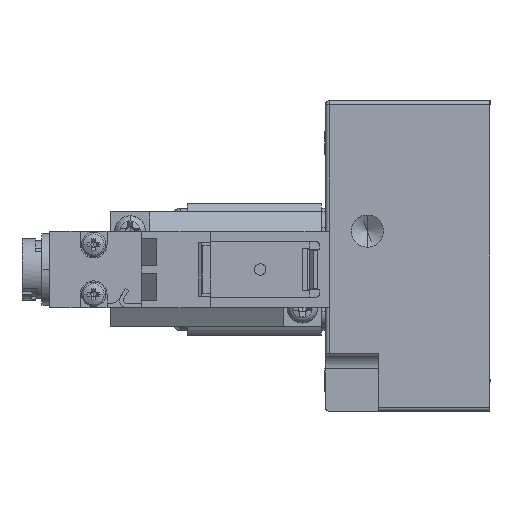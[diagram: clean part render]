
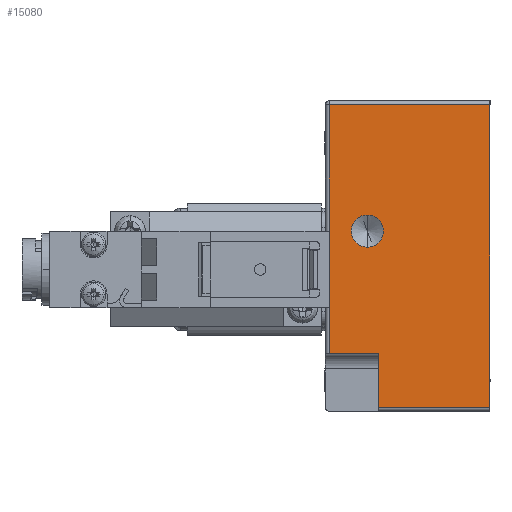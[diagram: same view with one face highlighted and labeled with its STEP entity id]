
A CAD part, left-side view. The second image highlights one B-rep face of the part: STEP entity #15080.
In plain terms, the highlighted planar face has unit normal (-1, 0, 0).
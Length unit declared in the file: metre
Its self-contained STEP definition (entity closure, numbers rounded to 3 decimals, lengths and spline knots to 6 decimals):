
#182 = EDGE_CURVE ( 'NONE', #21082, #3511, #3557, .T. ) ;
#225 = EDGE_CURVE ( 'NONE', #18153, #8799, #7630, .T. ) ;
#243 = VERTEX_POINT ( 'NONE', #2493 ) ;
#519 = CARTESIAN_POINT ( 'NONE',  ( -0.028, -0.0005, -0.011 ) ) ;
#613 = CARTESIAN_POINT ( 'NONE',  ( -0.028, -0.011, 0.0215 ) ) ;
#1608 = CARTESIAN_POINT ( 'NONE',  ( -0.028, -0.0055, 0.005 ) ) ;
#1626 = DIRECTION ( 'NONE',  ( 0., 0., -1. ) ) ;
#1664 = CARTESIAN_POINT ( 'NONE',  ( -0.028, -0.0215, 0.0215 ) ) ;
#1689 = DIRECTION ( 'NONE',  ( -1., 0., 0. ) ) ;
#1759 = DIRECTION ( 'NONE',  ( 0., 0., 1. ) ) ;
#2095 = LINE ( 'NONE', #2543, #20960 ) ;
#2407 = DIRECTION ( 'NONE',  ( 0., -1., 0. ) ) ;
#2437 = CARTESIAN_POINT ( 'NONE',  ( -0.028, -0.011, -0.018 ) ) ;
#2464 = CARTESIAN_POINT ( 'NONE',  ( -0.028, -0.0055, 0.0071 ) ) ;
#2493 = CARTESIAN_POINT ( 'NONE',  ( -0.028, -0.0005, 0.0215 ) ) ;
#2543 = CARTESIAN_POINT ( 'NONE',  ( -0.028, -0.011, -0.011 ) ) ;
#2607 = VECTOR ( 'NONE', #12811, 1. ) ;
#2958 = DIRECTION ( 'NONE',  ( 0., 0., -1. ) ) ;
#3511 = VERTEX_POINT ( 'NONE', #2464 ) ;
#3557 = CIRCLE ( 'NONE', #4434, 0.0021 ) ;
#3648 = LINE ( 'NONE', #18482, #8263 ) ;
#3958 = VECTOR ( 'NONE', #12563, 1. ) ;
#4434 = AXIS2_PLACEMENT_3D ( 'NONE', #1608, #1689, #1759 ) ;
#4656 = EDGE_CURVE ( 'NONE', #11437, #13387, #2095, .T. ) ;
#4853 = PLANE ( 'NONE',  #12902 ) ;
#4993 = CARTESIAN_POINT ( 'NONE',  ( -0.028, -0.007, -0.018 ) ) ;
#5388 = CARTESIAN_POINT ( 'NONE',  ( -0.028, -0.0215, -0.018 ) ) ;
#5472 = VERTEX_POINT ( 'NONE', #1664 ) ;
#5907 = ORIENTED_EDGE ( 'NONE', *, *, #19389, .F. ) ;
#6604 = DIRECTION ( 'NONE',  ( -1., 0., 0. ) ) ;
#6632 = LINE ( 'NONE', #22239, #15213 ) ;
#6899 = CARTESIAN_POINT ( 'NONE',  ( -0.028, -0.0055, 0.005 ) ) ;
#7084 = VECTOR ( 'NONE', #2407, 1. ) ;
#7293 = FACE_OUTER_BOUND ( 'NONE', #18193, .T. ) ;
#7428 = CARTESIAN_POINT ( 'NONE',  ( -0.028, -0.007, -0.011 ) ) ;
#7630 = LINE ( 'NONE', #2437, #7084 ) ;
#8263 = VECTOR ( 'NONE', #2958, 1. ) ;
#8527 = ORIENTED_EDGE ( 'NONE', *, *, #11052, .T. ) ;
#8631 = DIRECTION ( 'NONE',  ( 0., 0., 1. ) ) ;
#8799 = VERTEX_POINT ( 'NONE', #5388 ) ;
#9322 = ORIENTED_EDGE ( 'NONE', *, *, #182, .F. ) ;
#10630 = ORIENTED_EDGE ( 'NONE', *, *, #225, .T. ) ;
#10662 = CIRCLE ( 'NONE', #19912, 0.0021 ) ;
#11052 = EDGE_CURVE ( 'NONE', #13387, #18153, #3648, .T. ) ;
#11110 = CARTESIAN_POINT ( 'NONE',  ( -0.028, -0.0215, 0.00175 ) ) ;
#11145 = CARTESIAN_POINT ( 'NONE',  ( -0.028, -0.0055, 0.0029 ) ) ;
#11437 = VERTEX_POINT ( 'NONE', #519 ) ;
#12029 = LINE ( 'NONE', #613, #3958 ) ;
#12563 = DIRECTION ( 'NONE',  ( 0., 1., 0. ) ) ;
#12811 = DIRECTION ( 'NONE',  ( 0., 0., 1. ) ) ;
#12902 = AXIS2_PLACEMENT_3D ( 'NONE', #15138, #6604, #18657 ) ;
#13057 = EDGE_LOOP ( 'NONE', ( #5907, #9322 ) ) ;
#13387 = VERTEX_POINT ( 'NONE', #7428 ) ;
#13888 = ORIENTED_EDGE ( 'NONE', *, *, #17860, .T. ) ;
#14541 = DIRECTION ( 'NONE',  ( 0., -1., 0. ) ) ;
#15080 = ADVANCED_FACE ( 'NONE', ( #15872, #7293 ), #4853, .T. ) ;
#15138 = CARTESIAN_POINT ( 'NONE',  ( -0.028, -0.0215, -0.018 ) ) ;
#15213 = VECTOR ( 'NONE', #1626, 1. ) ;
#15872 = FACE_BOUND ( 'NONE', #13057, .T. ) ;
#16324 = LINE ( 'NONE', #11110, #2607 ) ;
#16764 = ORIENTED_EDGE ( 'NONE', *, *, #4656, .T. ) ;
#17860 = EDGE_CURVE ( 'NONE', #8799, #5472, #16324, .T. ) ;
#17870 = ORIENTED_EDGE ( 'NONE', *, *, #19358, .T. ) ;
#18153 = VERTEX_POINT ( 'NONE', #4993 ) ;
#18193 = EDGE_LOOP ( 'NONE', ( #20832, #17870, #16764, #8527, #10630, #13888 ) ) ;
#18454 = EDGE_CURVE ( 'NONE', #5472, #243, #12029, .T. ) ;
#18482 = CARTESIAN_POINT ( 'NONE',  ( -0.028, -0.007, 0.00175 ) ) ;
#18657 = DIRECTION ( 'NONE',  ( 0., 0., 1. ) ) ;
#18966 = DIRECTION ( 'NONE',  ( -1., 0., 0. ) ) ;
#19358 = EDGE_CURVE ( 'NONE', #243, #11437, #6632, .T. ) ;
#19389 = EDGE_CURVE ( 'NONE', #3511, #21082, #10662, .T. ) ;
#19912 = AXIS2_PLACEMENT_3D ( 'NONE', #6899, #18966, #8631 ) ;
#20832 = ORIENTED_EDGE ( 'NONE', *, *, #18454, .T. ) ;
#20960 = VECTOR ( 'NONE', #14541, 1. ) ;
#21082 = VERTEX_POINT ( 'NONE', #11145 ) ;
#22239 = CARTESIAN_POINT ( 'NONE',  ( -0.028, -0.0005, 0.00175 ) ) ;
